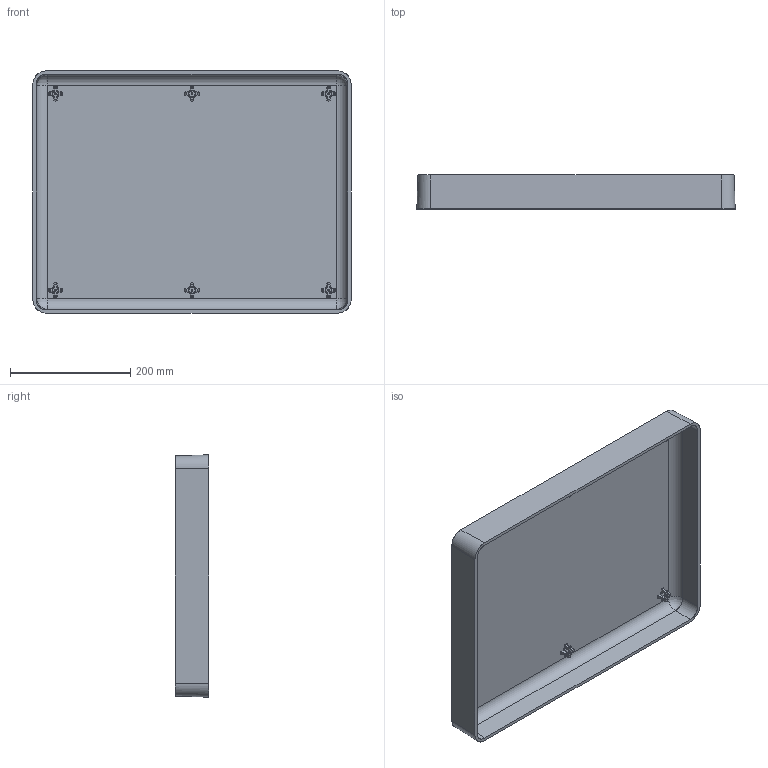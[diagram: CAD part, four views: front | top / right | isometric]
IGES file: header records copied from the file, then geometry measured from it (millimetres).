
Start section: SolidWorks IGES file using analytic representation for surfaces
Global section: file name: C:\working\1560\1561-931T-INT.IGS; native system: SolidWorks 2005 by SolidWorks Corporation; preprocessor: SolidWorks 2005 by SolidWorks Corporation; author: akameda; date: 050707.135937; units: inch
Bounding box: 528.57 x 56.13 x 402.46 mm (x, y, z)
Surface area: 602502.7 mm2 (no closed solid volume)
Topology: 0 solids, 0 shells, 645 faces, 4796 edges, 4796 vertices
Faces by surface type: bspline 375, revolution 270
